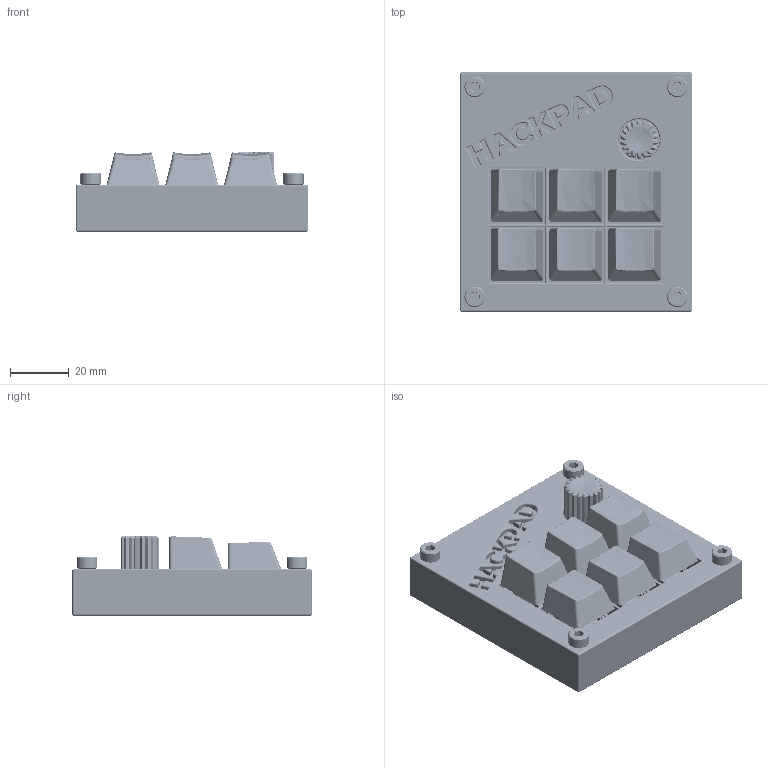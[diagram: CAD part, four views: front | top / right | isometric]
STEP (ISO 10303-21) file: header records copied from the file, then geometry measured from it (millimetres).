
FILE_DESCRIPTION(/* description */ ('STEP AP242 Edition 2','CAx-IF Rec.Pracs.---Representation and Presentation of Product Manufacturing Information (PMI)---4.0---2014-10-13','CAx-IF Rec.Pracs.---3D Tessellated Geometry---0.4---2014-09-14','2;1','CAx-IF Rec.Pracs.---User Defined Attributes---1.5---2016-08-15'),/* implementation_level */ '2;1');
FILE_NAME(/* name */ '6add4f15074bc5a43929de0c',/* time_stamp */ '2026-10-25T00:36:40Z',/* author */ (''),/* organization */ (''),/* preprocessor_version */ 'ST-DEVELOPER v20',/* originating_system */ 'ONSHAPE BY PTC INC, 1.222',/* authorisation */ ' ');
FILE_SCHEMA (('AP242_MANAGED_MODEL_BASED_3D_ENGINEERING_MIM_LF { 1 0 10303 442 3 1 4 }'));
Products named in the file (53): full; PATCH:1__Body3; Body2; casebot; casetop; PCB <1>; Right__Body 37 (4); USB-C bits__Body 155; Right__Body 37 (1); Part 1; USB-C bits__Body 158; USB-C bits__Body 156; Left__Body 37 (2); Right__Body 37 (7); Power probably__Body 153; 1x1 R3 v8:1__Body2; Left__Body 37 (1); Programmer port or something__Body 158; Right__Body 37 (3); Right__Body 37 (6); Programmer port or something__Body 159; LEDs__LED4; Reset pads__Body 162; Right__Body 37 (2); Seeed Studio XIAO SAMD21__PCB; Power probably__Body 154; LEDs__LED2; 1x1 R4 v6:1__Body2; Left__Body 37 (4); Reset pads__Body 161; Seeed Studio XIAO SAMD21__USB-C terminal; LEDs__LED3; Left__Body 37 (5); USB-C bits__Body 157; hac1B48_PCB; Left__Body 45; Right__Body 37 (5); LEDs__LED1; Left__Body 37; Programmer port or something__Body 160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
Assembly tree (70 placements, depth 4):
  full
    PATCH:1__Body3  x4
    Body2  x4
    casebot
    casetop
    PCB <1>
      Right__Body 37 (4)
      USB-C bits__Body 155
      Right__Body 37 (1)
      Part 1  x6
      USB-C bits__Body 158
      USB-C bits__Body 156
      Part 1
      Left__Body 37 (2)
      Right__Body 37 (7)
      Power probably__Body 153
      1x1 R3 v8:1__Body2  x3
      Left__Body 37 (1)
      Programmer port or something__Body 158
      Right__Body 37 (3)
      Right__Body 37 (6)
      Programmer port or something__Body 159
      LEDs__LED4
      Reset pads__Body 162
      Right__Body 37 (2)
      Seeed Studio XIAO SAMD21__PCB
      Power probably__Body 154
      LEDs__LED2
      1x1 R4 v6:1__Body2  x3
      Left__Body 37 (4)
      Reset pads__Body 161
      Seeed Studio XIAO SAMD21__USB-C terminal
      LEDs__LED3
      Left__Body 37 (5)
      USB-C bits__Body 157
      hac1B48_PCB
      Left__Body 45
      Right__Body 37 (5)
      LEDs__LED1
      Left__Body 37
      Programmer port or something__Body 160
      Programmer port or something__Body 157
      Seeed Studio XIAO SAMD21__Shielding
      EC11 <1>
        002^EC11__Âûðåç-Âûòÿ
íóòü5
        004^EC11__Ôàñêà3  x2
        001^EC11__Ñêðóãëåíè
å2
        005^EC11__Ôàñêà3  x3
        003^EC11__Ôàñêà1
        007^EC11__Áîáûøêà-Âû
òÿíóòü1
        008^EC11__Âûðåç-Ïîâå
ðíóòü1
        006^EC11__Ôàñêà1
      Left__Body 37 (3)
Bounding box: 79 x 81.5 x 27.02 mm (x, y, z)
Volume: 78298 mm3; surface area: 67268.3 mm2
Topology: 68 solids, 74 shells, 6902 faces, 19442 edges, 12760 vertices
Faces by surface type: plane 4397, cylinder 1846, cone 293, torus 211, bspline 104, sphere 51
Full cylindrical faces by diameter (mm): 0.203 x98, 0.572 x12, 0.6 x2, 0.75 x13, 1 x19, 1.1 x2, 1.5 x24, 1.6 x6, 1.7 x12, 3 x1, 3.2 x1, 3.3 x4, 4 x6, 4.3 x4, 4.7 x1, 5.6 x6, 6 x1, 6.4 x1, 6.8 x1, 7 x4, 7.2 x1, 9 x1, 10 x1, 11.8 x1, 14 x1
Entity records: 90869 total; most frequent: CARTESIAN_POINT 22591, ORIENTED_EDGE 13702, DIRECTION 12834, EDGE_CURVE 6851, VERTEX_POINT 4600, LINE 4354, VECTOR 4354, AXIS2_PLACEMENT_3D 4240
